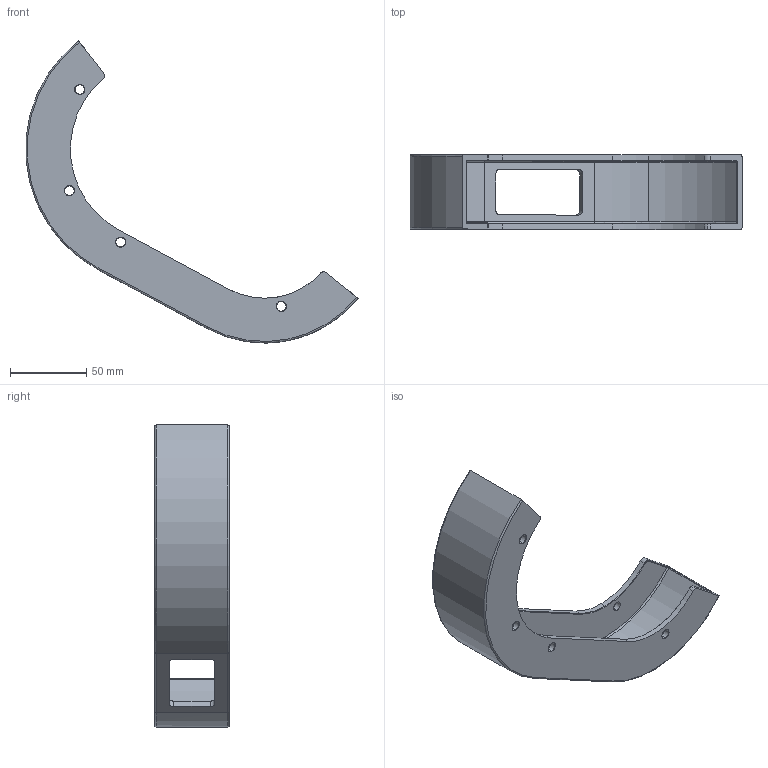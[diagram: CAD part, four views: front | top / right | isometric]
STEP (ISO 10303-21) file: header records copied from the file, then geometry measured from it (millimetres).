
FILE_DESCRIPTION (( 'STEP AP214' ), '1' );
FILE_NAME ('cpn-00030397_C.1.STEP', '2025-02-12T08:37:58', ( '' ), ( '' ), 'SwSTEP 2.0', 'SolidWorks 2024', '' );
FILE_SCHEMA (( 'AUTOMOTIVE_DESIGN' ));
Length unit declared in the file: millimetre
Products named in the file (1): cpn-00030397_C.1
Bounding box: 218.36 x 49 x 198.71 mm (x, y, z)
Volume: 126557.9 mm3; surface area: 66891.2 mm2
Topology: 1 solids, 1 shells, 93 faces, 235 edges, 144 vertices
Faces by surface type: cylinder 39, plane 22, cone 18, torus 10, bspline 4
Entity records: 3374 total; most frequent: CARTESIAN_POINT 1033, DIRECTION 513, ORIENTED_EDGE 470, EDGE_CURVE 235, AXIS2_PLACEMENT_3D 204, VERTEX_POINT 144, CIRCLE 114, EDGE_LOOP 111
